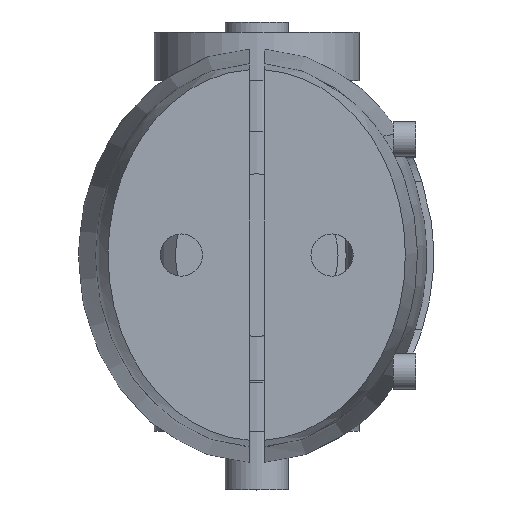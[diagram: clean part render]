
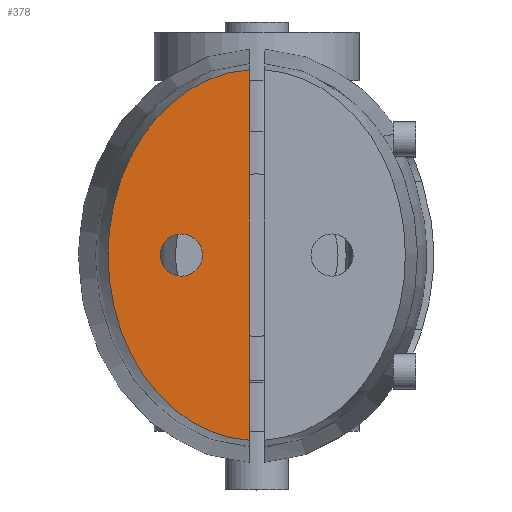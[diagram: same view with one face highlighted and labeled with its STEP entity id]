
A CAD part, top view. The second image highlights one B-rep face of the part: STEP entity #378.
In plain terms, the highlighted planar face has unit normal (0, 0, 1).
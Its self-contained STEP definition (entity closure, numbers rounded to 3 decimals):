
#86 = VERTEX_POINT('',#87);
#87 = CARTESIAN_POINT('',(-0.25,6.147,18.2));
#185 = VERTEX_POINT('',#186);
#186 = CARTESIAN_POINT('',(-0.25,-6.147,18.2));
#263 = EDGE_CURVE('',#86,#185,#264,.T.);
#264 = B_SPLINE_CURVE_WITH_KNOTS('',14,(#265,#266,#267,#268,#269,#270,
    #271,#272,#273,#274,#275,#276,#277,#278,#279),.UNSPECIFIED.,.T.,.F.,
  (15,15),(0.,1.),.PIECEWISE_BEZIER_KNOTS.);
#265 = CARTESIAN_POINT('',(0.,6.155,18.2));
#266 = CARTESIAN_POINT('',(-2.214,6.155,18.2));
#267 = CARTESIAN_POINT('',(-4.428,4.82,18.2));
#268 = CARTESIAN_POINT('',(-6.081,2.15,18.2));
#269 = CARTESIAN_POINT('',(-6.615,-1.456,18.2));
#270 = CARTESIAN_POINT('',(-5.668,-5.2,18.2));
#271 = CARTESIAN_POINT('',(-3.285,-8.057,18.2));
#272 = CARTESIAN_POINT('',(0.,-9.133,18.2));
#273 = CARTESIAN_POINT('',(3.285,-8.057,18.2));
#274 = CARTESIAN_POINT('',(5.668,-5.2,18.2));
#275 = CARTESIAN_POINT('',(6.615,-1.456,18.2));
#276 = CARTESIAN_POINT('',(6.081,2.15,18.2));
#277 = CARTESIAN_POINT('',(4.428,4.82,18.2));
#278 = CARTESIAN_POINT('',(2.214,6.155,18.2));
#279 = CARTESIAN_POINT('',(0.,6.155,18.2));
#367 = EDGE_CURVE('',#86,#185,#368,.T.);
#368 = LINE('',#369,#370);
#369 = CARTESIAN_POINT('',(-0.25,-14.422,18.2));
#370 = VECTOR('',#371,1.);
#371 = DIRECTION('',(0.,-1.,0.));
#378 = ADVANCED_FACE('',(#379,#383),#394,.F.);
#379 = FACE_BOUND('',#380,.F.);
#380 = EDGE_LOOP('',(#381,#382));
#381 = ORIENTED_EDGE('',*,*,#263,.F.);
#382 = ORIENTED_EDGE('',*,*,#367,.T.);
#383 = FACE_BOUND('',#384,.F.);
#384 = EDGE_LOOP('',(#385));
#385 = ORIENTED_EDGE('',*,*,#386,.T.);
#386 = EDGE_CURVE('',#387,#387,#389,.T.);
#387 = VERTEX_POINT('',#388);
#388 = CARTESIAN_POINT('',(-1.8,0.,18.2));
#389 = CIRCLE('',#390,0.7);
#390 = AXIS2_PLACEMENT_3D('',#391,#392,#393);
#391 = CARTESIAN_POINT('',(-2.5,0.,18.2));
#392 = DIRECTION('',(0.,0.,1.));
#393 = DIRECTION('',(1.,0.,-0.));
#394 = PLANE('',#395);
#395 = AXIS2_PLACEMENT_3D('',#396,#397,#398);
#396 = CARTESIAN_POINT('',(0.,6.155,18.2));
#397 = DIRECTION('',(0.,0.,-1.));
#398 = DIRECTION('',(0.,-1.,-0.));
